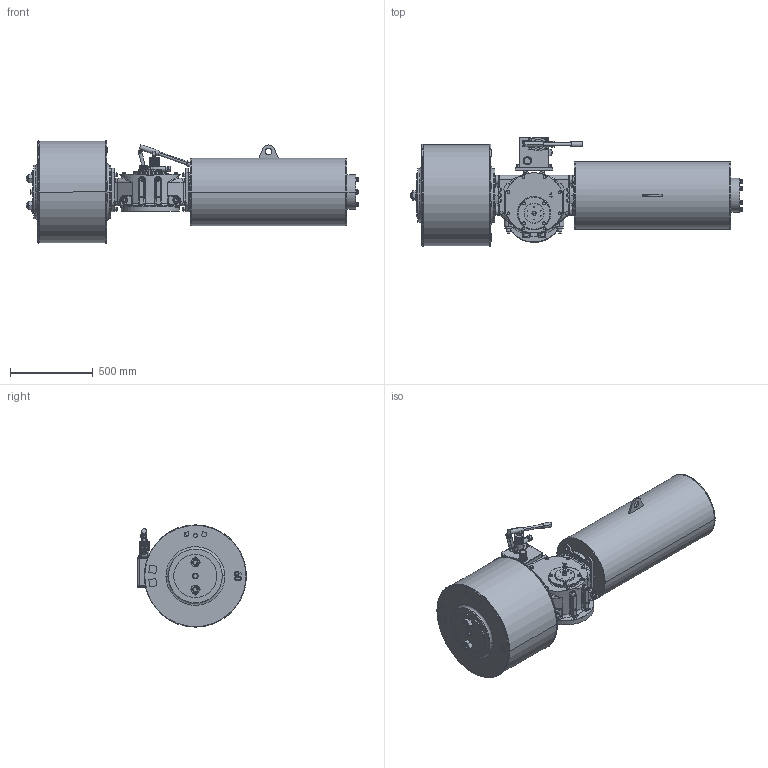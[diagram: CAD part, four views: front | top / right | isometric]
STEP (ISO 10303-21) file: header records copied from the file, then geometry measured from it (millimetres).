
FILE_DESCRIPTION (( 'STEP AP203' ), '1' );
FILE_NAME ('VTS4-600-SR-MH-FC.STEP', '2022-07-27T04:07:11', ( '' ), ( '' ), 'SwSTEP 2.0', 'SolidWorks 2020', '' );
FILE_SCHEMA (( 'CONFIG_CONTROL_DESIGN' ));
Length unit declared in the file: millimetre
Products named in the file (1): VTS4-600-SR-MH-FC
Bounding box: 2000.38 x 656.4 x 616 mm (x, y, z)
Volume: 285308306.4 mm3; surface area: 4821430.5 mm2
Topology: 54 solids, 57 shells, 2845 faces, 7052 edges, 4454 vertices
Faces by surface type: plane 1176, cylinder 977, cone 552, bspline 112, torus 28
Entity records: 98135 total; most frequent: CARTESIAN_POINT 30708, DIRECTION 14333, ORIENTED_EDGE 13920, EDGE_CURVE 6960, AXIS2_PLACEMENT_3D 5631, VERTEX_POINT 4454, EDGE_LOOP 3222, LINE 3071
